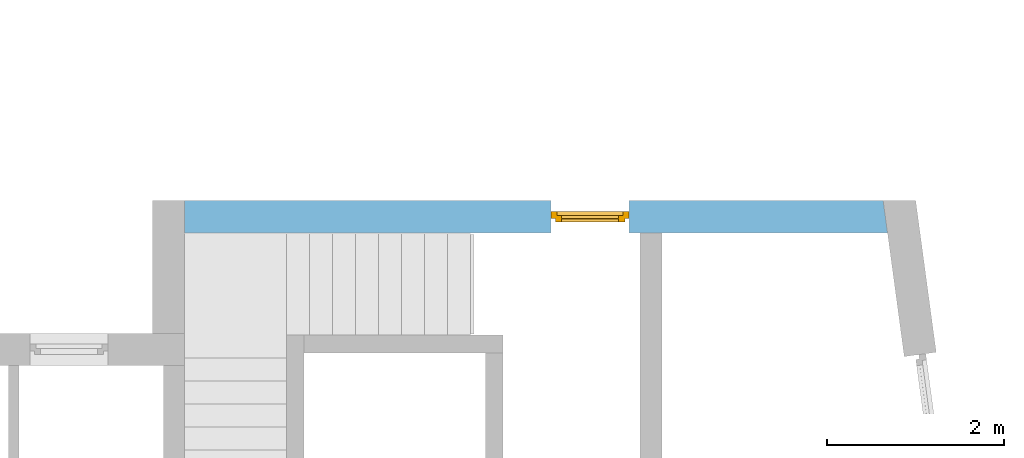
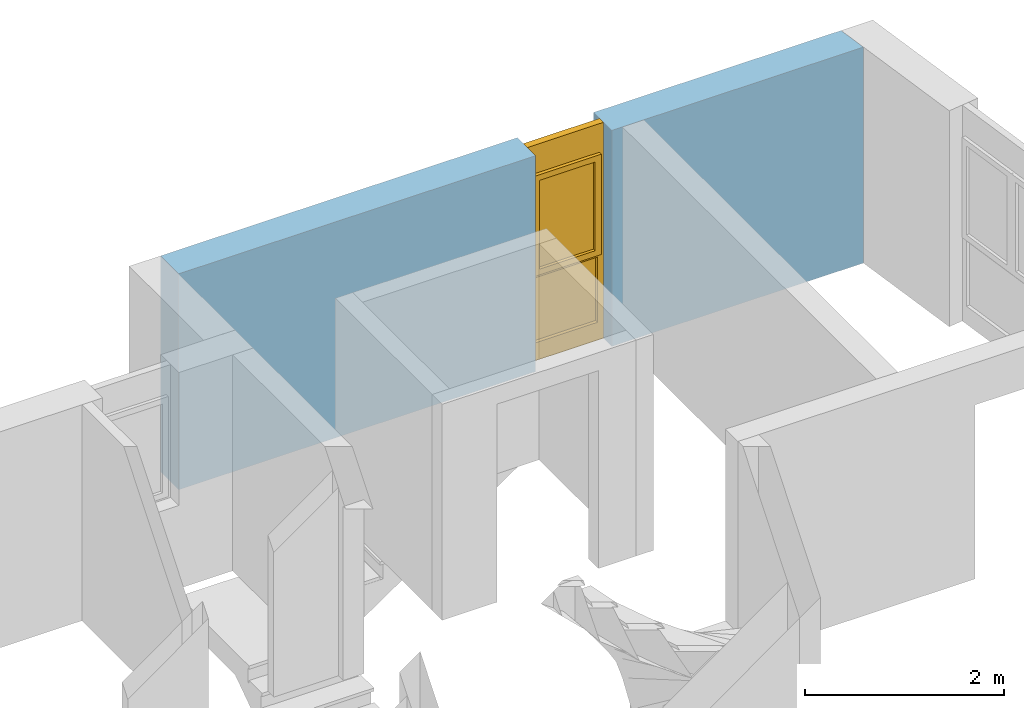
# One storey, part 42 of 42: 1 window, 1 opening, plus 1 element that does not belong to this part.
"""IFC2X3 building model written with IfcOpenShell, lengths in millimetres."""

import ifcopenshell
import ifcopenshell.guid

model = None  # the IFC model being written
_history = None  # IfcOwnerHistory: only IFC2X3 demands one
_inside = {}  # id of a spatial element -> (the spatial element, [elements in it])
_under = {}  # id of a project, library or spatial element -> (it, [spatial elements below it])
_declared = {}  # id of a project -> (the project, [libraries it declares])
_typed = {}  # id of a type object -> (the type object, [elements of that type])
_made_of = {}  # id of a material, layer set ... -> (it, [elements and type objects made of it])


def new_model(schema):
    """Start an empty IFC model of exactly this schema.

    Asked for "IFC4X3", IfcOpenShell would pick the latest addendum, in which some entities
    have other attributes; the version numbers below select the first issue.
    IFC2X3 requires an IfcOwnerHistory on every rooted entity: one is made here for all.
    """
    global model, _history
    if schema == "IFC4X3":
        model = ifcopenshell.file(schema_version=(4, 3, 0, 0))
    else:
        model = ifcopenshell.file(schema=schema)
    _inside.clear()
    _under.clear()
    _declared.clear()
    _typed.clear()
    _made_of.clear()
    _history = None
    if model.schema == "IFC2X3":
        org = make("IfcOrganization", Name="unknown")
        user = make(
            "IfcPersonAndOrganization",
            ThePerson=make("IfcPerson", FamilyName="unknown"),
            TheOrganization=org,
        )
        app = make(
            "IfcApplication",
            ApplicationDeveloper=org,
            Version="unknown",
            ApplicationFullName="unknown",
            ApplicationIdentifier="unknown",
        )
        _history = make(
            "IfcOwnerHistory",
            OwningUser=user,
            OwningApplication=app,
            ChangeAction="ADDED",
            CreationDate=0,
        )
    return model


def make(cls, **values):
    """One entity of the class cls with the attributes given. An attribute that is None is left unset."""
    return model.create_entity(
        cls, **{name: value for name, value in values.items() if value is not None}
    )


def entity(cls, *values):
    """Any entity or typed value of the class cls, its attributes in the order of the schema. None: left unset."""
    e = model.create_entity(cls)
    for i, value in enumerate(values):
        if value is not None:
            e[i] = value
    return e


def rooted(cls, **values):
    """An entity with a GlobalId (a new one), such as an element, a storey or a relation."""
    return make(cls, GlobalId=ifcopenshell.guid.new(), OwnerHistory=_history, **values)


def si_unit(unit_type, name, prefix=None):
    """IfcSIUnit, for example si_unit("LENGTHUNIT", "METRE", prefix="MILLI")."""
    return make("IfcSIUnit", UnitType=unit_type, Prefix=prefix, Name=name)


def converted_unit(unit_type, name, factor, base, dimensions=None, offset=None):
    """IfcConversionBasedUnit, such as the inch: factor (a typed value) times the base unit."""
    return make(
        "IfcConversionBasedUnit"
        if offset is None
        else "IfcConversionBasedUnitWithOffset",
        ConversionOffset=offset,
        Dimensions=None
        if dimensions is None
        else entity("IfcDimensionalExponents", *dimensions),
        UnitType=unit_type,
        Name=name,
        ConversionFactor=make(
            "IfcMeasureWithUnit", ValueComponent=factor, UnitComponent=base
        ),
    )


def assignment(units):
    """IfcUnitAssignment: the units of a project."""
    return None if units is None else make("IfcUnitAssignment", Units=units)


def point(xyz):
    """IfcCartesianPoint."""
    return None if xyz is None else make("IfcCartesianPoint", Coordinates=xyz)


def direction(xyz):
    """IfcDirection."""
    return None if xyz is None else make("IfcDirection", DirectionRatios=xyz)


def frame(location, z_axis=None, x_axis=None):
    """IfcAxis2Placement3D, a coordinate frame: its origin and axes. An axis left out is left unset."""
    return make(
        "IfcAxis2Placement3D",
        Location=point(location),
        Axis=direction(z_axis),
        RefDirection=direction(x_axis),
    )


def frame_2d(location, x_axis=None):
    """IfcAxis2Placement2D, a coordinate frame in the plane: its origin and x axis."""
    return make(
        "IfcAxis2Placement2D", Location=point(location), RefDirection=direction(x_axis)
    )


def origin():
    """The frame at (0, 0, 0) with its axes left unset."""
    return frame((0.0, 0.0, 0.0))


def origin_with_axes():
    """The frame at (0, 0, 0) with the z axis (0, 0, 1) and the x axis (1, 0, 0) written out."""
    return frame((0.0, 0.0, 0.0), z_axis=(0.0, 0.0, 1.0), x_axis=(1.0, 0.0, 0.0))


def place(relative_to, where):
    """IfcLocalPlacement: puts the frame where relative to a parent placement (None: the world)."""
    return make(
        "IfcLocalPlacement", PlacementRelTo=relative_to, RelativePlacement=where
    )


def context(
    kind, dimensions, precision=None, world=None, true_north=None, identifier=None
):
    """IfcGeometricRepresentationContext, for example the 3D "Model" context."""
    return make(
        "IfcGeometricRepresentationContext",
        ContextIdentifier=identifier,
        ContextType=kind,
        CoordinateSpaceDimension=dimensions,
        Precision=precision,
        WorldCoordinateSystem=world,
        TrueNorth=true_north,
    )


def subcontext(parent, identifier, kind, view, scale=None):
    """IfcGeometricRepresentationSubContext, for example "Body" below "Model"."""
    return make(
        "IfcGeometricRepresentationSubContext",
        ContextIdentifier=identifier,
        ContextType=kind,
        ParentContext=parent,
        TargetScale=scale,
        TargetView=view,
    )


def project(units=None, contexts=None):
    """IfcProject with its units and contexts."""
    return rooted(
        "IfcProject",
        Name="project",
        RepresentationContexts=contexts,
        UnitsInContext=assignment(units),
    )


def spatial(cls, under=None, at=None, **own):
    """A site, building, storey or space (cls), placed at a placement, below another one or the project."""
    s = rooted(cls, ObjectPlacement=at, **own)
    if under is not None:
        _under.setdefault(under.id(), (under, []))[1].append(s)
    return s


def polyline(points):
    """IfcPolyline through the points."""
    return make("IfcPolyline", Points=[point(p) for p in points])


def profile(cls, at=None, kind="AREA", **sizes):
    """A parametric profile (cls). Its sizes go by their IFC names, for example OverallWidth=200.0."""
    return make(cls, ProfileType=kind, Position=at, **sizes)


def rectangle(**sizes):
    """IfcRectangleProfileDef."""
    return profile("IfcRectangleProfileDef", **sizes)


def outline(outer, holes=None, kind="AREA"):
    """IfcArbitraryClosedProfileDef: a profile drawn as a closed curve; with holes, ...WithVoids."""
    if holes is None:
        return make("IfcArbitraryClosedProfileDef", ProfileType=kind, OuterCurve=outer)
    return make(
        "IfcArbitraryProfileDefWithVoids",
        ProfileType=kind,
        OuterCurve=outer,
        InnerCurves=holes,
    )


def extrude(swept, where, along, depth):
    """IfcExtrudedAreaSolid: the profile swept, set in the frame where, extruded along a direction by depth."""
    return make(
        "IfcExtrudedAreaSolid",
        SweptArea=swept,
        Position=where,
        ExtrudedDirection=direction(along),
        Depth=depth,
    )


def faces_of(points, faces, orient=None, outer=None):
    """IfcFace entities. A face is a list of loops; a loop is a list of indices into points, from 0.

    orient and outer hold one flag for each loop. By default every Orientation is true, the
    first loop of a face is its IfcFaceOuterBound and the others are IfcFaceBound.
    """
    made = []
    for i, loops in enumerate(faces):
        bounds = []
        for j, loop in enumerate(loops):
            is_outer = j == 0 if outer is None else outer[i][j]
            bounds.append(
                make(
                    "IfcFaceOuterBound" if is_outer else "IfcFaceBound",
                    Bound=make("IfcPolyLoop", Polygon=[points[k] for k in loop]),
                    Orientation=True if orient is None else orient[i][j],
                )
            )
        made.append(make("IfcFace", Bounds=bounds))
    return made


def faceted_brep(points, faces, orient=None, outer=None, voids=None):
    """IfcFacetedBrep: a solid bounded by flat faces; with voids (closed shells), ...WithVoids."""
    shared = [point(p) for p in points]
    hull = make("IfcClosedShell", CfsFaces=faces_of(shared, faces, orient, outer))
    if voids is None:
        return make("IfcFacetedBrep", Outer=hull)
    return make(
        "IfcFacetedBrepWithVoids",
        Outer=hull,
        Voids=[
            make(cls, CfsFaces=faces_of(shared, fs, o, b)) for cls, fs, o, b in voids
        ],
    )


def shape(context_of_items, identifier, shape_type, items):
    """IfcShapeRepresentation: the items that make up one representation, for example the "Body"."""
    return make(
        "IfcShapeRepresentation",
        ContextOfItems=context_of_items,
        RepresentationIdentifier=identifier,
        RepresentationType=shape_type,
        Items=items,
    )


def material(Name=None, Category=None):
    """IfcMaterial."""
    return make("IfcMaterial", Name=Name, Category=Category)


def layer(
    of_material, thickness, ventilated=None, Name=None, Category=None, Priority=None
):
    """IfcMaterialLayer: one layer of a wall or slab, of a material (None: an air gap)."""
    return make(
        "IfcMaterialLayer",
        Material=of_material,
        LayerThickness=thickness,
        IsVentilated=ventilated,
        Name=Name,
        Category=Category,
        Priority=Priority,
    )


def layer_set(layers, Name=None):
    """IfcMaterialLayerSet."""
    return make("IfcMaterialLayerSet", MaterialLayers=layers, LayerSetName=Name)


def layer_usage(for_layer_set, set_direction, sense, offset, extent=None):
    """IfcMaterialLayerSetUsage: how a layer set lies in its element."""
    return make(
        "IfcMaterialLayerSetUsage",
        ForLayerSet=for_layer_set,
        LayerSetDirection=set_direction,
        DirectionSense=sense,
        OffsetFromReferenceLine=offset,
        ReferenceExtent=extent,
    )


def made_of(thing, what):
    """Note that an element or type object is made of a material, layer set ...; save() writes the relation."""
    if what is not None:
        _made_of.setdefault(what.id(), (what, []))[1].append(thing)
    return thing


def type_object(cls, material=None, **own):
    """A type object (cls), such as IfcWallType, which elements share."""
    return made_of(rooted(cls, **own), material)


def element(
    cls,
    number,
    at=None,
    inside=None,
    cuts=None,
    type_object=None,
    material=None,
    context=None,
    identifier="Body",
    shape_type=None,
    held_by="IfcProductDefinitionShape",
    body=None,
    shapes=None,
    **own,
):
    """One element of the class cls, such as IfcWall. Its Tag is "e" and its number.

    at: its placement. inside: the storey or other place that contains it. cuts: it is an
    opening in that element (IfcRelVoidsElement). A single representation is given by context,
    identifier, shape_type and body (its items); several are given by shapes. held_by: the class
    of the entity that holds the representations. save() writes the other relations.
    """
    e = rooted(cls, Tag="e%d" % number, ObjectPlacement=at, **own)
    if body is not None:
        shapes = [shape(context, identifier, shape_type, body)]
    if shapes is not None:
        e.Representation = make(held_by, Representations=shapes)
    if inside is not None:
        _inside.setdefault(inside.id(), (inside, []))[1].append(e)
    if cuts is not None:
        rooted(
            "IfcRelVoidsElement", RelatingBuildingElement=cuts, RelatedOpeningElement=e
        )
    if type_object is not None:
        _typed.setdefault(type_object.id(), (type_object, []))[1].append(e)
    return made_of(e, material)


def fill(opening, filler):
    """IfcRelFillsElement: the door or window that sits in an opening."""
    return rooted(
        "IfcRelFillsElement",
        RelatingOpeningElement=opening,
        RelatedBuildingElement=filler,
    )


def aggregate(whole, parts):
    """IfcRelAggregates: a whole, such as a stair, and the parts it consists of."""
    return rooted("IfcRelAggregates", RelatingObject=whole, RelatedObjects=parts)


def save(model, path):
    """Write the relations noted so far, then the file.

    IfcRelAggregates (storeys below a building ...), IfcRelContainedInSpatialStructure (elements
    in a storey), IfcRelDefinesByType, IfcRelAssociatesMaterial and IfcRelDeclares: one each for
    every whole, place, type object, material and project.
    """
    for whole, parts in _under.values():
        aggregate(whole, parts)
    for where, things in _inside.values():
        rooted(
            "IfcRelContainedInSpatialStructure",
            RelatedElements=things,
            RelatingStructure=where,
        )
    for kind, things in _typed.values():
        rooted("IfcRelDefinesByType", RelatedObjects=things, RelatingType=kind)
    for what, things in _made_of.values():
        rooted("IfcRelAssociatesMaterial", RelatedObjects=things, RelatingMaterial=what)
    for by, libraries in _declared.values():
        rooted("IfcRelDeclares", RelatingContext=by, RelatedDefinitions=libraries)
    model.write(path)


model = new_model("IFC2X3")

# Units and contexts
model_context = context("Model", 3, precision=1e-05, world=origin())
body_context = subcontext(model_context, "Body", "Model", "MODEL_VIEW")
ifc_project = project(units=[si_unit("LENGTHUNIT", "METRE", prefix="MILLI"), converted_unit("PLANEANGLEUNIT", "DEGREE", entity("IfcPlaneAngleMeasure", 0.0174532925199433), si_unit("PLANEANGLEUNIT", "RADIAN"), dimensions=[0, 0, 0, 0, 0, 0, 0]), si_unit("AREAUNIT", "SQUARE_METRE"), si_unit("VOLUMEUNIT", "CUBIC_METRE")], contexts=[model_context])

# Building, storey
building_placement = place(None, origin())
building = spatial("IfcBuilding", under=ifc_project, at=building_placement, Name="Gebäude", CompositionType="ELEMENT")
storey_placement = place(building_placement, frame((0.0, 0.0, 2730.0), z_axis=(0.0, 0.0, 1.0), x_axis=(1.0, 0.0, 0.0)))
storey = spatial("IfcBuildingStorey", under=building, at=storey_placement, Name="OG.- Grundriss", CompositionType="ELEMENT", Elevation=2730.0)

# Wall, opening, window
ifc_material_1 = material(Name="Poroton")
ifc_layer = layer(ifc_material_1, 365.0000000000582)
ifc_layer_set = layer_set([ifc_layer])
ifc_layer_usage = layer_usage(ifc_layer_set, "AXIS2", "POSITIVE", 0.0)
wall_placement = place(storey_placement, frame((184136.2065758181, 136274.8877324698, 0.0), z_axis=(0.0, 0.0, 1.0), x_axis=(-1.0, 0.0, 0.0)))
wall = element("IfcWallStandardCase", 1, at=wall_placement, inside=storey, material=ifc_layer_usage, Name="<Unnamed Element>", context=body_context, shape_type="SweptSolid", body=[
    extrude(outline(polyline([(0.0, 0.0), (7898.413769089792, 0.0), (7898.413769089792, 365.0000000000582), (-49.37204599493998, 365.0000000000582), (0.0, 0.0)])), origin_with_axes(), (0.0, 0.0, 1.0), 2650.0),
])
opening_placement = place(wall_placement, frame((2871.675959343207, 0.0, 0.0), z_axis=(0.0, 1.0, 0.0), x_axis=(0.0, 0.0, 1.0)))
opening = element("IfcOpeningElement", 2, at=opening_placement, cuts=wall, Name="Fensteröffnung", ObjectType="Opening", context=body_context, shape_type="SweptSolid", body=[
    extrude(rectangle(XDim=2650.0, YDim=885.0, at=frame_2d((1325.0, 442.5), x_axis=(1.0, 0.0))), origin_with_axes(), (0.0, 0.0, 1.0), 365.0000000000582),
])
ifc_material_2 = material()
window_style = type_object("IfcWindowStyle", Name="Fenster", ConstructionType="NOTDEFINED", OperationType="USERDEFINED", ParameterTakesPrecedence=False, Sizeable=False)
window_placement = place(opening_placement, frame((0.0, 0.0, 0.0), z_axis=(1.0, 0.0, 0.0), x_axis=(0.0, 1.0, 0.0)))
window = element("IfcWindow", 3, at=window_placement, inside=storey, type_object=window_style, material=ifc_material_2, Name="Fenster", OverallHeight=2650.0, OverallWidth=885.0, context=body_context, shape_type="Brep", body=[
    faceted_brep([(9.797174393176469e-15, 200.0000000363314, 2650.0), (9.797174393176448e-15, 200.0000000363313, -2.449293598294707e-15), (69.99999999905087, 200.0000000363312, -2.449293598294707e-15), (69.99999999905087, 200.0000000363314, 2650.0), (0.0, 120.0000000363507, 2.449293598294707e-15), (1.914360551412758e-29, 120.0000000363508, 2650.0), (69.99999999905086, 120.0000000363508, 2650.0), (69.99999999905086, 120.0000000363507, 2.449293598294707e-15), (9.797174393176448e-15, 200.0000000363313, -2.449293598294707e-15), (9.797174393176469e-15, 200.0000000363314, 2650.0), (1.914360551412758e-29, 120.0000000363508, 2650.0), (0.0, 120.0000000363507, 2.449293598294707e-15), (69.99999999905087, 200.0000000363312, -2.449293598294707e-15), (9.797174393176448e-15, 200.0000000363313, -2.449293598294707e-15), (0.0, 120.0000000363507, 2.449293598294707e-15), (69.99999999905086, 120.0000000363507, 2.449293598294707e-15), (69.99999999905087, 200.0000000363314, 2650.0), (69.99999999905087, 200.0000000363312, -2.449293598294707e-15), (69.99999999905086, 120.0000000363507, 2.449293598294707e-15), (69.99999999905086, 120.0000000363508, 2650.0), (9.797174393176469e-15, 200.0000000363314, 2650.0), (69.99999999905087, 200.0000000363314, 2650.0), (69.99999999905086, 120.0000000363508, 2650.0), (1.914360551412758e-29, 120.0000000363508, 2650.0)], [[[0, 1, 2, 3]], [[4, 5, 6, 7]], [[8, 9, 10, 11]], [[12, 13, 14, 15]], [[16, 17, 18, 19]], [[20, 21, 22, 23]]], orient=[[False], [False], [False], [False], [False], [False]]),
    faceted_brep([(815.0000000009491, 200.0000000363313, 2650.0), (815.0000000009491, 200.0000000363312, -2.449293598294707e-15), (884.9999999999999, 200.0000000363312, -2.449293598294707e-15), (884.9999999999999, 200.0000000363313, 2650.0), (815.0000000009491, 120.0000000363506, 2.449293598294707e-15), (815.0000000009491, 120.0000000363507, 2650.0), (884.9999999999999, 120.0000000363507, 2650.0), (884.9999999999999, 120.0000000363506, 2.449293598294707e-15), (815.0000000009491, 200.0000000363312, -2.449293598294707e-15), (815.0000000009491, 200.0000000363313, 2650.0), (815.0000000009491, 120.0000000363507, 2650.0), (815.0000000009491, 120.0000000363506, 2.449293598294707e-15), (884.9999999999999, 200.0000000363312, -2.449293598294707e-15), (815.0000000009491, 200.0000000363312, -2.449293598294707e-15), (815.0000000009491, 120.0000000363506, 2.449293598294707e-15), (884.9999999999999, 120.0000000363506, 2.449293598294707e-15), (884.9999999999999, 200.0000000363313, 2650.0), (884.9999999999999, 200.0000000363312, -2.449293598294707e-15), (884.9999999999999, 120.0000000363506, 2.449293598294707e-15), (884.9999999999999, 120.0000000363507, 2650.0), (815.0000000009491, 200.0000000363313, 2650.0), (884.9999999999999, 200.0000000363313, 2650.0), (884.9999999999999, 120.0000000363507, 2650.0), (815.0000000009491, 120.0000000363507, 2650.0)], [[[0, 1, 2, 3]], [[4, 5, 6, 7]], [[8, 9, 10, 11]], [[12, 13, 14, 15]], [[16, 17, 18, 19]], [[20, 21, 22, 23]]], orient=[[False], [False], [False], [False], [False], [False]]),
    faceted_brep([(69.99999999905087, 200.0000000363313, 220.0), (69.99999999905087, 200.0000000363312, -2.449293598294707e-15), (815.0000000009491, 200.0000000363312, -2.449293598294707e-15), (815.0000000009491, 200.0000000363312, 220.0), (69.99999999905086, 120.0000000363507, 2.449293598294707e-15), (69.99999999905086, 120.0000000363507, 220.0), (815.0000000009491, 120.0000000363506, 220.0), (815.0000000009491, 120.0000000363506, 2.449293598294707e-15), (69.99999999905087, 200.0000000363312, -2.449293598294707e-15), (69.99999999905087, 200.0000000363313, 220.0), (69.99999999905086, 120.0000000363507, 220.0), (69.99999999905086, 120.0000000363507, 2.449293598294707e-15), (815.0000000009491, 200.0000000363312, -2.449293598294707e-15), (69.99999999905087, 200.0000000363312, -2.449293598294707e-15), (69.99999999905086, 120.0000000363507, 2.449293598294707e-15), (815.0000000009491, 120.0000000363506, 2.449293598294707e-15), (815.0000000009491, 200.0000000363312, 220.0), (815.0000000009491, 200.0000000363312, -2.449293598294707e-15), (815.0000000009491, 120.0000000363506, 2.449293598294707e-15), (815.0000000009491, 120.0000000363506, 220.0), (69.99999999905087, 200.0000000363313, 220.0), (815.0000000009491, 200.0000000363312, 220.0), (815.0000000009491, 120.0000000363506, 220.0), (69.99999999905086, 120.0000000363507, 220.0)], [[[0, 1, 2, 3]], [[4, 5, 6, 7]], [[8, 9, 10, 11]], [[12, 13, 14, 15]], [[16, 17, 18, 19]], [[20, 21, 22, 23]]], orient=[[False], [False], [False], [False], [False], [False]]),
    faceted_brep([(69.99999999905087, 200.0000000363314, 2650.0), (69.99999999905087, 200.0000000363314, 2280.0), (815.0000000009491, 200.0000000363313, 2280.0), (815.0000000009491, 200.0000000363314, 2650.0), (69.99999999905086, 120.0000000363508, 2280.0), (69.99999999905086, 120.0000000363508, 2650.0), (815.0000000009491, 120.0000000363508, 2650.0), (815.0000000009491, 120.0000000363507, 2280.0), (69.99999999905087, 200.0000000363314, 2280.0), (69.99999999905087, 200.0000000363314, 2650.0), (69.99999999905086, 120.0000000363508, 2650.0), (69.99999999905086, 120.0000000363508, 2280.0), (815.0000000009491, 200.0000000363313, 2280.0), (69.99999999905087, 200.0000000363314, 2280.0), (69.99999999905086, 120.0000000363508, 2280.0), (815.0000000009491, 120.0000000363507, 2280.0), (815.0000000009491, 200.0000000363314, 2650.0), (815.0000000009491, 200.0000000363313, 2280.0), (815.0000000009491, 120.0000000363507, 2280.0), (815.0000000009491, 120.0000000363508, 2650.0), (69.99999999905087, 200.0000000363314, 2650.0), (815.0000000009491, 200.0000000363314, 2650.0), (815.0000000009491, 120.0000000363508, 2650.0), (69.99999999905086, 120.0000000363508, 2650.0)], [[[0, 1, 2, 3]], [[4, 5, 6, 7]], [[8, 9, 10, 11]], [[12, 13, 14, 15]], [[16, 17, 18, 19]], [[20, 21, 22, 23]]], orient=[[False], [False], [False], [False], [False], [False]]),
    faceted_brep([(69.99999999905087, 200.0000000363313, 1090.0), (69.99999999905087, 200.0000000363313, 1020.0), (815.0000000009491, 200.0000000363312, 1020.0), (815.0000000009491, 200.0000000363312, 1090.0), (69.99999999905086, 120.0000000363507, 1020.0), (69.99999999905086, 120.0000000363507, 1090.0), (815.0000000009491, 120.0000000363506, 1090.0), (815.0000000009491, 120.0000000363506, 1020.0), (69.99999999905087, 200.0000000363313, 1020.0), (69.99999999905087, 200.0000000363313, 1090.0), (69.99999999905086, 120.0000000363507, 1090.0), (69.99999999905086, 120.0000000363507, 1020.0), (815.0000000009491, 200.0000000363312, 1020.0), (69.99999999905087, 200.0000000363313, 1020.0), (69.99999999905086, 120.0000000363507, 1020.0), (815.0000000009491, 120.0000000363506, 1020.0), (815.0000000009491, 200.0000000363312, 1090.0), (815.0000000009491, 200.0000000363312, 1020.0), (815.0000000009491, 120.0000000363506, 1020.0), (815.0000000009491, 120.0000000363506, 1090.0), (69.99999999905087, 200.0000000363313, 1090.0), (815.0000000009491, 200.0000000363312, 1090.0), (815.0000000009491, 120.0000000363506, 1090.0), (69.99999999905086, 120.0000000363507, 1090.0)], [[[0, 1, 2, 3]], [[4, 5, 6, 7]], [[8, 9, 10, 11]], [[12, 13, 14, 15]], [[16, 17, 18, 19]], [[20, 21, 22, 23]]], orient=[[False], [False], [False], [False], [False], [False]]),
    faceted_brep([(69.99999999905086, 160.000000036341, 220.0), (815.0000000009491, 160.0000000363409, 220.0), (815.0000000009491, 160.0000000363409, 1020.0), (69.99999999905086, 160.000000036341, 1020.0), (69.99999999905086, 159.000000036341, 220.0), (69.99999999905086, 159.000000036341, 1020.0), (815.0000000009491, 159.0000000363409, 1020.0), (815.0000000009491, 159.0000000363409, 220.0), (69.99999999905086, 160.000000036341, 220.0), (69.99999999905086, 159.000000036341, 220.0), (815.0000000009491, 159.0000000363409, 220.0), (815.0000000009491, 160.0000000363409, 220.0), (815.0000000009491, 160.0000000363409, 220.0), (815.0000000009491, 159.0000000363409, 220.0), (815.0000000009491, 159.0000000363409, 1020.0), (815.0000000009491, 160.0000000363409, 1020.0), (815.0000000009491, 160.0000000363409, 1020.0), (815.0000000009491, 159.0000000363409, 1020.0), (69.99999999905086, 159.000000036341, 1020.0), (69.99999999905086, 160.000000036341, 1020.0), (69.99999999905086, 160.000000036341, 1020.0), (69.99999999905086, 159.000000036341, 1020.0), (69.99999999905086, 159.000000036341, 220.0), (69.99999999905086, 160.000000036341, 220.0)], [[[0, 1, 2, 3]], [[4, 5, 6, 7]], [[8, 9, 10, 11]], [[12, 13, 14, 15]], [[16, 17, 18, 19]], [[20, 21, 22, 23]]], orient=[[False], [False], [False], [False], [False], [False]]),
    faceted_brep([(49.99999999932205, 240.0000000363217, 2300.0), (49.99999999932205, 240.0000000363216, 1070.0), (119.9999999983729, 240.0000000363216, 1070.0), (119.9999999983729, 240.0000000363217, 2300.0), (49.99999999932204, 170.0000000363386, 1070.0), (49.99999999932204, 170.0000000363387, 2300.0), (119.9999999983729, 170.0000000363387, 2300.0), (119.9999999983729, 170.0000000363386, 1070.0), (49.99999999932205, 240.0000000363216, 1070.0), (49.99999999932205, 240.0000000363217, 2300.0), (49.99999999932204, 170.0000000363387, 2300.0), (49.99999999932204, 170.0000000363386, 1070.0), (119.9999999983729, 240.0000000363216, 1070.0), (49.99999999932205, 240.0000000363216, 1070.0), (49.99999999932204, 170.0000000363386, 1070.0), (119.9999999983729, 170.0000000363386, 1070.0), (119.9999999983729, 240.0000000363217, 2300.0), (119.9999999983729, 240.0000000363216, 1070.0), (119.9999999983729, 170.0000000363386, 1070.0), (119.9999999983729, 170.0000000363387, 2300.0), (49.99999999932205, 240.0000000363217, 2300.0), (119.9999999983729, 240.0000000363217, 2300.0), (119.9999999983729, 170.0000000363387, 2300.0), (49.99999999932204, 170.0000000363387, 2300.0)], [[[0, 1, 2, 3]], [[4, 5, 6, 7]], [[8, 9, 10, 11]], [[12, 13, 14, 15]], [[16, 17, 18, 19]], [[20, 21, 22, 23]]], orient=[[False], [False], [False], [False], [False], [False]]),
    faceted_brep([(765.000000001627, 240.0000000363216, 2300.0), (765.000000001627, 240.0000000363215, 1070.0), (835.0000000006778, 240.0000000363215, 1070.0), (835.0000000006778, 240.0000000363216, 2300.0), (765.000000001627, 170.0000000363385, 1070.0), (765.000000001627, 170.0000000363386, 2300.0), (835.0000000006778, 170.0000000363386, 2300.0), (835.0000000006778, 170.0000000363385, 1070.0), (765.000000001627, 240.0000000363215, 1070.0), (765.000000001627, 240.0000000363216, 2300.0), (765.000000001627, 170.0000000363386, 2300.0), (765.000000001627, 170.0000000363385, 1070.0), (835.0000000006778, 240.0000000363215, 1070.0), (765.000000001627, 240.0000000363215, 1070.0), (765.000000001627, 170.0000000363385, 1070.0), (835.0000000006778, 170.0000000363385, 1070.0), (835.0000000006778, 240.0000000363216, 2300.0), (835.0000000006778, 240.0000000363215, 1070.0), (835.0000000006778, 170.0000000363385, 1070.0), (835.0000000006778, 170.0000000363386, 2300.0), (765.000000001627, 240.0000000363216, 2300.0), (835.0000000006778, 240.0000000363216, 2300.0), (835.0000000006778, 170.0000000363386, 2300.0), (765.000000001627, 170.0000000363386, 2300.0)], [[[0, 1, 2, 3]], [[4, 5, 6, 7]], [[8, 9, 10, 11]], [[12, 13, 14, 15]], [[16, 17, 18, 19]], [[20, 21, 22, 23]]], orient=[[False], [False], [False], [False], [False], [False]]),
    faceted_brep([(119.9999999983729, 240.0000000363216, 1140.0), (119.9999999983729, 240.0000000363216, 1070.0), (765.000000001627, 240.0000000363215, 1070.0), (765.000000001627, 240.0000000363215, 1140.0), (119.9999999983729, 170.0000000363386, 1070.0), (119.9999999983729, 170.0000000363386, 1140.0), (765.000000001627, 170.0000000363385, 1140.0), (765.000000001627, 170.0000000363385, 1070.0), (119.9999999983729, 240.0000000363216, 1070.0), (119.9999999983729, 240.0000000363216, 1140.0), (119.9999999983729, 170.0000000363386, 1140.0), (119.9999999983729, 170.0000000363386, 1070.0), (765.000000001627, 240.0000000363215, 1070.0), (119.9999999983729, 240.0000000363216, 1070.0), (119.9999999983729, 170.0000000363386, 1070.0), (765.000000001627, 170.0000000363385, 1070.0), (765.000000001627, 240.0000000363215, 1140.0), (765.000000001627, 240.0000000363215, 1070.0), (765.000000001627, 170.0000000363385, 1070.0), (765.000000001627, 170.0000000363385, 1140.0), (119.9999999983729, 240.0000000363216, 1140.0), (765.000000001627, 240.0000000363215, 1140.0), (765.000000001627, 170.0000000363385, 1140.0), (119.9999999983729, 170.0000000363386, 1140.0)], [[[0, 1, 2, 3]], [[4, 5, 6, 7]], [[8, 9, 10, 11]], [[12, 13, 14, 15]], [[16, 17, 18, 19]], [[20, 21, 22, 23]]], orient=[[False], [False], [False], [False], [False], [False]]),
    faceted_brep([(119.9999999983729, 240.0000000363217, 2300.0), (119.9999999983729, 240.0000000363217, 2230.0), (765.000000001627, 240.0000000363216, 2230.0), (765.000000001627, 240.0000000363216, 2300.0), (119.9999999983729, 170.0000000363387, 2230.0), (119.9999999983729, 170.0000000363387, 2300.0), (765.000000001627, 170.0000000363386, 2300.0), (765.000000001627, 170.0000000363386, 2230.0), (119.9999999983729, 240.0000000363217, 2230.0), (119.9999999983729, 240.0000000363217, 2300.0), (119.9999999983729, 170.0000000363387, 2300.0), (119.9999999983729, 170.0000000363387, 2230.0), (765.000000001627, 240.0000000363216, 2230.0), (119.9999999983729, 240.0000000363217, 2230.0), (119.9999999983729, 170.0000000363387, 2230.0), (765.000000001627, 170.0000000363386, 2230.0), (765.000000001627, 240.0000000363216, 2300.0), (765.000000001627, 240.0000000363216, 2230.0), (765.000000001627, 170.0000000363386, 2230.0), (765.000000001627, 170.0000000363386, 2300.0), (119.9999999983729, 240.0000000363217, 2300.0), (765.000000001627, 240.0000000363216, 2300.0), (765.000000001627, 170.0000000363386, 2300.0), (119.9999999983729, 170.0000000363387, 2300.0)], [[[0, 1, 2, 3]], [[4, 5, 6, 7]], [[8, 9, 10, 11]], [[12, 13, 14, 15]], [[16, 17, 18, 19]], [[20, 21, 22, 23]]], orient=[[False], [False], [False], [False], [False], [False]]),
    faceted_brep([(119.9999999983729, 205.0000000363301, 1140.0), (765.000000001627, 205.0000000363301, 1140.0), (765.000000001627, 205.0000000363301, 2230.0), (119.9999999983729, 205.0000000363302, 2230.0), (119.9999999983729, 204.0000000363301, 1140.0), (119.9999999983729, 204.0000000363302, 2230.0), (765.000000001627, 204.0000000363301, 2230.0), (765.000000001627, 204.0000000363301, 1140.0), (119.9999999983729, 205.0000000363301, 1140.0), (119.9999999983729, 204.0000000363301, 1140.0), (765.000000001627, 204.0000000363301, 1140.0), (765.000000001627, 205.0000000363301, 1140.0), (765.000000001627, 205.0000000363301, 1140.0), (765.000000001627, 204.0000000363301, 1140.0), (765.000000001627, 204.0000000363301, 2230.0), (765.000000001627, 205.0000000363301, 2230.0), (765.000000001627, 205.0000000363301, 2230.0), (765.000000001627, 204.0000000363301, 2230.0), (119.9999999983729, 204.0000000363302, 2230.0), (119.9999999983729, 205.0000000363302, 2230.0), (119.9999999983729, 205.0000000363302, 2230.0), (119.9999999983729, 204.0000000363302, 2230.0), (119.9999999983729, 204.0000000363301, 1140.0), (119.9999999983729, 205.0000000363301, 1140.0)], [[[0, 1, 2, 3]], [[4, 5, 6, 7]], [[8, 9, 10, 11]], [[12, 13, 14, 15]], [[16, 17, 18, 19]], [[20, 21, 22, 23]]], orient=[[False], [False], [False], [False], [False], [False]]),
])
fill(opening, window)

save(model, "model.ifc")
